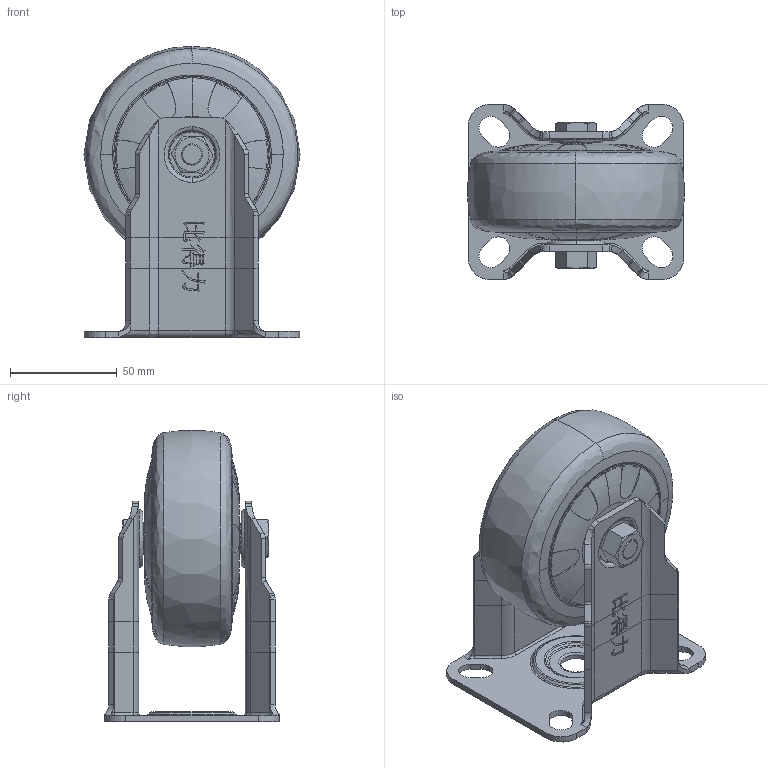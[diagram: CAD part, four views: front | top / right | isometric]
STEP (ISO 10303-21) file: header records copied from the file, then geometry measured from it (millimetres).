
FILE_DESCRIPTION (( 'STEP AP203' ), '1' );
FILE_NAME ('4渡嘐隅.STEP', '2024-12-30T05:32:02', ( '' ), ( '' ), 'SwSTEP 2.0', 'SolidWorks 2023', '' );
FILE_SCHEMA (( 'CONFIG_CONTROL_DESIGN' ));
Length unit declared in the file: millimetre
Products named in the file (5): 4寸固定; 4cun 防尘盖; 4cun zhou; 复件 4寸轮子^装配体4
Assembly tree (5 placements, depth 2):
  4寸固定
    4寸固定
    复件 4寸轮子^装配体4
    4cun zhou
    4cun 防尘盖  x2
Bounding box: 101.34 x 82 x 136.47 mm (x, y, z)
Volume: 97152.8 mm3; surface area: 147377.4 mm2
Topology: 30 solids, 49 shells, 1464 faces, 4251 edges, 2749 vertices
Faces by surface type: bspline 1190, plane 194, cylinder 76, torus 4
Entity records: 79486 total; most frequent: CARTESIAN_POINT 50922, ORIENTED_EDGE 7682, EDGE_CURVE 4033, DIRECTION 2716, VERTEX_POINT 2693, B_SPLINE_CURVE_WITH_KNOTS 1980, EDGE_LOOP 1537, ADVANCED_FACE 1424
